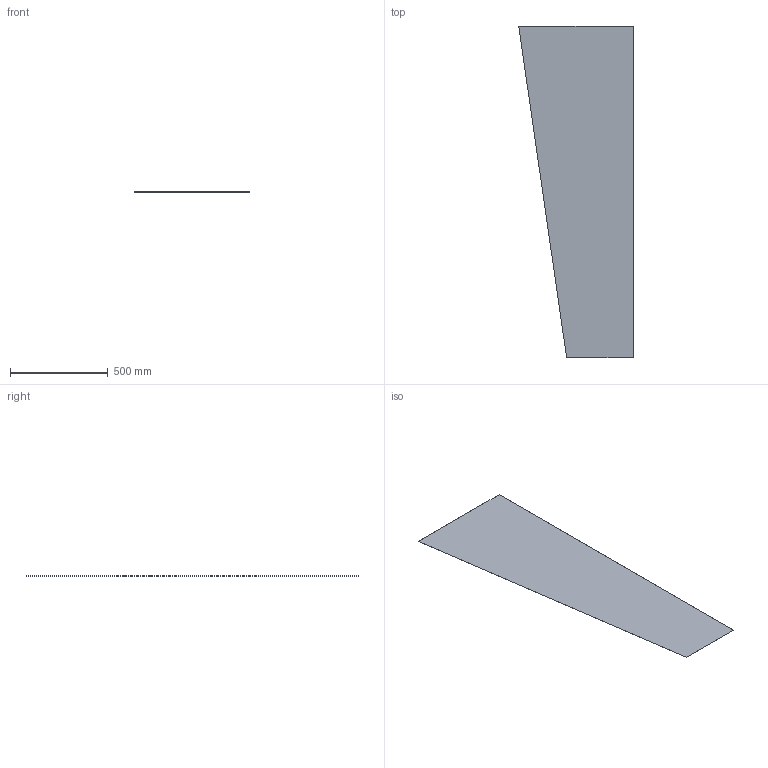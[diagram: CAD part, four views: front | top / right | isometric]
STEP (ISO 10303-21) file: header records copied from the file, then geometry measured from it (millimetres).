
FILE_DESCRIPTION(/* description */ ('PCB Design'),/* implementation_level */ '2;1');
FILE_NAME(/* name */ 'layout_8_juin_2017',/* time_stamp */ '2017-07-17T09:57:11+02:00',/* author */ ('delaunay'),/* organization */ (''),/* preprocessor_version */ 'ST-DEVELOPER v16',/* originating_system */ 'allegro_17.2S004',/* authorisation */ '');
FILE_SCHEMA (('AUTOMOTIVE_DESIGN { 1 0 10303 214 3 1 1 }'));
Length unit declared in the file: millimetre
Products named in the file (2): LAYOUT_8_JUIN_2017; BOARD_OUTLINE
Assembly tree (1 placements, depth 2):
  LAYOUT_8_JUIN_2017
    BOARD_OUTLINE
Bounding box: 586.23 x 1700 x 0.5 mm (x, y, z)
Surface area: 1578845.1 mm2 (no closed solid volume)
Topology: 0 solids, 1 shells, 6 faces, 13 edges, 8 vertices
Faces by surface type: plane 6
Entity records: 189 total; most frequent: ORIENTED_EDGE 24, DIRECTION 20, EDGE_CURVE 13, VECTOR 13, LINE 13, CARTESIAN_POINT 11, VERTEX_POINT 10, AXIS2_PLACEMENT_3D 8
